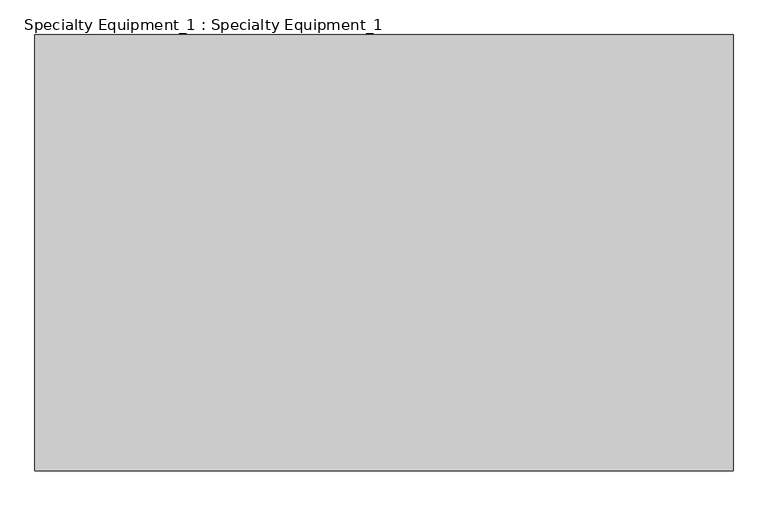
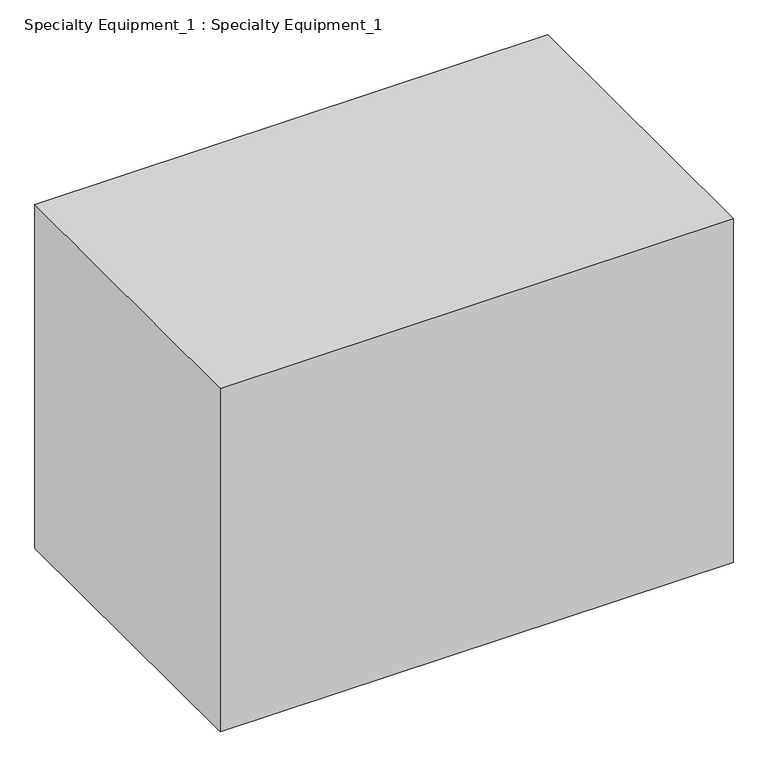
"""IFC4 building model written with IfcOpenShell, lengths in millimetres: proxy geometry, Specialty Equipment_1 : Specialty Equipment_1."""

from ifc_helpers import new_model, si_unit, origin, origin_with_axes, place, context, project, spatial, polyline, outline, extrude, source, transform, mapped, element, save


def specialty_equipment_1_specialty_equipment_1_27041f3f(model_context):
    return source(origin(), model_context, "Body", "SweptSolid", [
        extrude(outline(polyline([(609.6, 0.0), (609.6, -762.0), (-609.6, -762.0), (-609.6, 0.0), (609.6, 0.0)])), origin_with_axes(), (0.0, 0.0, 1.0), 863.6),
    ])


if __name__ == "__main__":
    model = new_model("IFC4")
    model_context = context("Model", 3, world=origin())
    ifc_project = project(units=[si_unit("LENGTHUNIT", "METRE", prefix="MILLI")], contexts=[model_context])
    site = spatial("IfcSite", under=ifc_project)
    building = spatial("IfcBuilding", under=site)
    placement = place(None, origin())
    specialty_equipment_1_specialty_equipment_1_shape = specialty_equipment_1_specialty_equipment_1_27041f3f(model_context)
    element("IfcBuildingElementProxy", 1, Name="Specialty Equipment_1 : Specialty Equipment_1", ObjectType="Specialty Equipment_1 : Specialty Equipment_1", at=placement, inside=building, context=model_context, shape_type="MappedRepresentation", body=[
        mapped(specialty_equipment_1_specialty_equipment_1_shape, transform((0.0, 0.0, 0.0), x_axis=(1.0, 0.0, 0.0), y_axis=(0.0, 1.0, 0.0), z_axis=(0.0, 0.0, 1.0))),
    ])
    save(model, "model.ifc")
